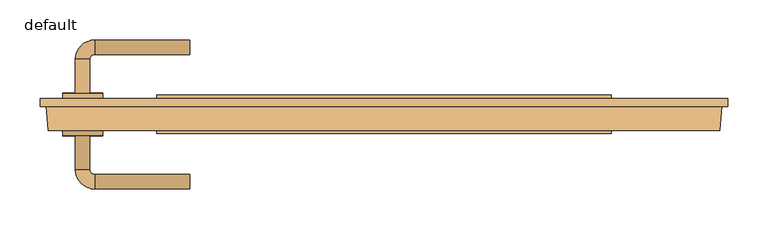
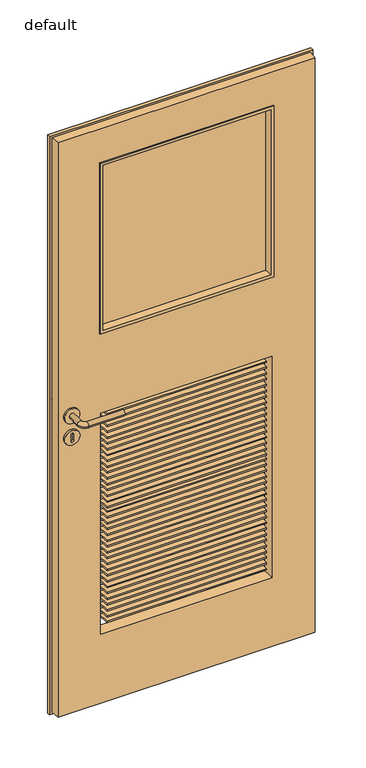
"""IFC4 building model written with IfcOpenShell, lengths in millimetres: door geometry, Panel_FIN_40D_Rebated_Glazed_05 without vent : default."""

from ifc_helpers import new_model, si_unit, point, frame, frame_2d, origin, place, context, project, spatial, polyline, circle_curve, ellipse_curve, trimmed, segment, composite_curve, outline, extrude, faceted_brep, source, transform, mapped, element, save
from ifc_brep_helpers import plane_surface, cylinder_surface, revolved_surface, advanced_brep


def default_41fbb746(model_context):
    return source(origin(), model_context, "Body", "SolidModel", [
        extrude(outline(composite_curve([segment(trimmed(circle_curve(frame_2d((970.5, -376.0)), 25.0), [point((970.5, -351.0))], [point((970.5, -401.0))], False, "CARTESIAN"), True, "CONTINUOUS"), segment(trimmed(circle_curve(frame_2d((970.5, -376.0)), 25.0), [point((970.5, -401.0))], [point((970.5, -351.0))], False, "CARTESIAN"), True, "CONTINUOUS")], self_intersect=False), holes=[composite_curve([segment(trimmed(circle_curve(frame_2d((981.743411, -376.0)), 4.0), [point((981.743411, -380.0))], [point((981.743411, -372.0))], True, "CARTESIAN"), True, "CONTINUOUS"), segment(polyline([(981.743411, -372.0), (959.256589, -372.0)]), True, "CONTINUOUS"), segment(trimmed(circle_curve(frame_2d((959.256589, -376.0)), 4.0), [point((959.256589, -372.0))], [point((959.256589, -380.0))], True, "CARTESIAN"), True, "CONTINUOUS"), segment(polyline([(959.256589, -380.0), (981.743411, -380.0)]), True, "CONTINUOUS")], self_intersect=False)]), frame((0.0, -47.0, 0.0), z_axis=(0.0, 1.0, 0.0), x_axis=(0.0, 0.0, 1.0)), (0.0, 0.0, 1.0), 7.0),
        extrude(outline(composite_curve([segment(trimmed(circle_curve(frame_2d((970.5, -376.0)), 25.0), [point((970.5, -351.0))], [point((970.5, -401.0))], False, "CARTESIAN"), True, "CONTINUOUS"), segment(trimmed(circle_curve(frame_2d((970.5, -376.0)), 25.0), [point((970.5, -401.0))], [point((970.5, -351.0))], False, "CARTESIAN"), True, "CONTINUOUS")], self_intersect=False), holes=[composite_curve([segment(polyline([(959.256589, -380.0), (981.743411, -380.0)]), True, "CONTINUOUS"), segment(trimmed(circle_curve(frame_2d((981.743411, -376.0)), 4.0), [point((981.743411, -380.0))], [point((981.743411, -372.0))], True, "CARTESIAN"), True, "CONTINUOUS"), segment(polyline([(981.743411, -372.0), (959.256589, -372.0)]), True, "CONTINUOUS"), segment(trimmed(circle_curve(frame_2d((959.256589, -376.0)), 4.0), [point((959.256589, -372.0))], [point((959.256589, -380.0))], True, "CARTESIAN"), True, "CONTINUOUS")], self_intersect=False)]), frame((0.0, 0.0, 0.0), z_axis=(0.0, 1.0, 0.0), x_axis=(0.0, 0.0, 1.0)), (0.0, 0.0, 1.0), 7.0),
        advanced_brep(
        [(-401.0, -46.0, 1044.5), (-351.0, -46.0, 1044.5), (-367.0346073, -46.0, 1044.5), (-384.9653927, -46.0, 1044.5), (-401.0, -40.0, 1044.5), (-351.0, -40.0, 1044.5), (-384.9653927, -88.9627146, 1044.5), (-367.0346073, -88.9627146, 1044.5), (-361.0, -112.9281073, 1044.5), (-361.0, -94.9973219, 1044.5), (-242.0, -94.9973219, 1044.5), (-242.0, -112.9281073, 1044.5)],
        [
            (0, 1, circle_curve(frame((-376.0, -46.0, 1044.5), z_axis=(0.0, -1.0, 0.0), x_axis=(1.0, 0.0, 0.0)), 25.0)),
            (1, 0, circle_curve(frame((-376.0, -46.0, 1044.5), z_axis=(0.0, -1.0, 0.0), x_axis=(1.0, 0.0, 0.0)), 25.0)),
            (2, 3, circle_curve(frame((-376.0, -46.0, 1044.5), z_axis=(0.0, 1.0, 0.0), x_axis=(-1.0, 0.0, 0.0)), 8.9653927)),
            (3, 2, circle_curve(frame((-376.0, -46.0, 1044.5), z_axis=(0.0, 1.0, 0.0), x_axis=(-1.0, 0.0, 0.0)), 8.9653927)),
            (4, 5, circle_curve(frame((-376.0, -40.0, 1044.5), z_axis=(0.0, 1.0, 0.0), x_axis=(1.0, 0.0, 0.0)), 25.0)),
            (5, 4, circle_curve(frame((-376.0, -40.0, 1044.5), z_axis=(0.0, 1.0, 0.0), x_axis=(1.0, 0.0, 0.0)), 25.0)),
            (0, 4),
            (5, 1),
            (3, 6),
            (6, 7, circle_curve(frame((-376.0, -88.9627146, 1044.5), z_axis=(0.0, 1.0, 0.0), x_axis=(-1.0, 0.0, 0.0)), 8.9653927)),
            (7, 2),
            (7, 6, circle_curve(frame((-376.0, -88.9627146, 1044.5), z_axis=(0.0, 1.0, 0.0), x_axis=(-1.0, 0.0, 0.0)), 8.9653927)),
            (6, 8, circle_curve(frame((-361.0, -88.9627146, 1044.5), z_axis=(0.0, 0.0, 1.0), x_axis=(-1.0, 0.0, 0.0)), 23.9653927)),
            (8, 9, circle_curve(frame((-361.0, -103.9627146, 1044.5), z_axis=(-1.0, 0.0, 0.0), x_axis=(0.0, -1.0, 0.0)), 8.9653927)),
            (9, 7, circle_curve(frame((-361.0, -88.9627146, 1044.5), z_axis=(0.0, 0.0, -1.0), x_axis=(-1.0, 0.0, 0.0)), 6.0346073)),
            (9, 8, circle_curve(frame((-361.0, -103.9627146, 1044.5), z_axis=(-1.0, 0.0, 0.0), x_axis=(0.0, -1.0, 0.0)), 8.9653927)),
            (10, 11, circle_curve(frame((-242.0, -103.9627146, 1044.5), z_axis=(1.0, 0.0, 0.0), x_axis=(0.0, -1.0, 0.0)), 8.9653927)),
            (11, 10, circle_curve(frame((-242.0, -103.9627146, 1044.5), z_axis=(1.0, 0.0, 0.0), x_axis=(0.0, -1.0, 0.0)), 8.9653927)),
            (8, 11),
            (10, 9),
        ],
        [
            plane_surface(frame((-351.0, -46.0, 1044.5), z_axis=(0.0, -1.0, 0.0), x_axis=(0.0, 0.0, -1.0))),
            plane_surface(frame((-351.0, -40.0, 1044.5), z_axis=(0.0, 1.0, 0.0), x_axis=(0.0, 0.0, 1.0))),
            cylinder_surface(frame((-376.0, -46.0, 1044.5), z_axis=(0.0, 1.0, 0.0), x_axis=(1.0, 0.0, 0.0)), 25.0),
            cylinder_surface(frame((-376.0, -46.0, 1044.5), z_axis=(0.0, 1.0, 0.0), x_axis=(-1.0, 0.0, 0.0)), 8.9653927),
            revolved_surface(trimmed(ellipse_curve(frame((-376.0, -88.9627146, 1044.5), z_axis=(0.0, -1.0, 0.0), x_axis=(-1.0, 0.0, 0.0)), 8.9653927, 8.9653927), [point((-367.0346073, -88.9627146, 1044.5))], [point((-384.9653927, -88.9627146, 1044.5))], True, "CARTESIAN"), (-361.0, -88.9627146, 1044.5), (0.0, 0.0, -1.0)),
            revolved_surface(trimmed(ellipse_curve(frame((-376.0, -88.9627146, 1044.5), z_axis=(0.0, -1.0, 0.0), x_axis=(-1.0, 0.0, 0.0)), 8.9653927, 8.9653927), [point((-384.9653927, -88.9627146, 1044.5))], [point((-367.0346073, -88.9627146, 1044.5))], True, "CARTESIAN"), (-361.0, -88.9627146, 1044.5), (0.0, 0.0, -1.0)),
            plane_surface(frame((-242.0, -103.9627146, 1044.5), z_axis=(1.0, 0.0, 0.0), x_axis=(0.0, 0.0, 1.0))),
            cylinder_surface(frame((-361.0, -103.9627146, 1044.5), z_axis=(-1.0, 0.0, 0.0), x_axis=(0.0, -1.0, 0.0)), 8.9653927),
        ],
        [
            (0, [[1, 2], [3, 4]]),
            (1, [[5, 6]]),
            (2, [[7, -6, 8, -1]]),
            (2, [[-8, -5, -7, -2]]),
            (3, [[-4, 9, 10, 11]]),
            (3, [[12, -9, -3, -11]]),
            (4, [[13, 14, 15, -10]]),
            (5, [[-15, 16, -13, -12]]),
            (6, [[17, 18]]),
            (7, [[19, -17, 20, -14]]),
            (7, [[-20, -18, -19, -16]]),
        ],
    ),
        advanced_brep(
        [(-401.0, 6.0, 1044.5), (-351.0, 6.0, 1044.5), (-367.0346073, 6.0, 1044.5), (-384.9653927, 6.0, 1044.5), (-401.0, 0.0, 1044.5), (-351.0, 0.0, 1044.5), (-367.0346073, 48.9627146, 1044.5), (-384.9653927, 48.9627146, 1044.5), (-361.0, 54.9973219, 1044.5), (-361.0, 72.9281073, 1044.5), (-242.0, 54.9973219, 1044.5), (-242.0, 72.9281073, 1044.5)],
        [
            (0, 1, circle_curve(frame((-376.0, 6.0, 1044.5), z_axis=(0.0, 1.0, 0.0), x_axis=(1.0, 0.0, 0.0)), 25.0)),
            (1, 0, circle_curve(frame((-376.0, 6.0, 1044.5), z_axis=(0.0, 1.0, 0.0), x_axis=(1.0, 0.0, 0.0)), 25.0)),
            (2, 3, circle_curve(frame((-376.0, 6.0, 1044.5), z_axis=(0.0, -1.0, 0.0), x_axis=(-1.0, 0.0, 0.0)), 8.9653927)),
            (3, 2, circle_curve(frame((-376.0, 6.0, 1044.5), z_axis=(0.0, -1.0, 0.0), x_axis=(-1.0, 0.0, 0.0)), 8.9653927)),
            (4, 5, circle_curve(frame((-376.0, 0.0, 1044.5), z_axis=(0.0, -1.0, 0.0), x_axis=(1.0, 0.0, 0.0)), 25.0)),
            (5, 4, circle_curve(frame((-376.0, 0.0, 1044.5), z_axis=(0.0, -1.0, 0.0), x_axis=(1.0, 0.0, 0.0)), 25.0)),
            (1, 5),
            (4, 0),
            (2, 6),
            (6, 7, circle_curve(frame((-376.0, 48.9627146, 1044.5), z_axis=(0.0, -1.0, 0.0), x_axis=(-1.0, 0.0, 0.0)), 8.9653927)),
            (7, 3),
            (7, 6, circle_curve(frame((-376.0, 48.9627146, 1044.5), z_axis=(0.0, -1.0, 0.0), x_axis=(-1.0, 0.0, 0.0)), 8.9653927)),
            (6, 8, circle_curve(frame((-361.0, 48.9627146, 1044.5), z_axis=(0.0, 0.0, -1.0), x_axis=(-1.0, 0.0, 0.0)), 6.0346073)),
            (8, 9, circle_curve(frame((-361.0, 63.9627146, 1044.5), z_axis=(-1.0, 0.0, 0.0), x_axis=(0.0, 1.0, 0.0)), 8.9653927)),
            (9, 7, circle_curve(frame((-361.0, 48.9627146, 1044.5), z_axis=(0.0, 0.0, 1.0), x_axis=(-1.0, 0.0, 0.0)), 23.9653927)),
            (9, 8, circle_curve(frame((-361.0, 63.9627146, 1044.5), z_axis=(-1.0, 0.0, 0.0), x_axis=(0.0, 1.0, 0.0)), 8.9653927)),
            (10, 11, circle_curve(frame((-242.0, 63.9627146, 1044.5), z_axis=(1.0, 0.0, 0.0), x_axis=(0.0, 1.0, 0.0)), 8.9653927)),
            (11, 10, circle_curve(frame((-242.0, 63.9627146, 1044.5), z_axis=(1.0, 0.0, 0.0), x_axis=(0.0, 1.0, 0.0)), 8.9653927)),
            (8, 10),
            (11, 9),
        ],
        [
            plane_surface(frame((-351.0, 6.0, 1044.5), z_axis=(0.0, 1.0, 0.0), x_axis=(0.0, 0.0, -1.0))),
            plane_surface(frame((-351.0, 0.0, 1044.5), z_axis=(0.0, -1.0, 0.0), x_axis=(0.0, 0.0, 1.0))),
            cylinder_surface(frame((-376.0, 6.0, 1044.5), z_axis=(0.0, -1.0, 0.0), x_axis=(1.0, 0.0, 0.0)), 25.0),
            cylinder_surface(frame((-376.0, 6.0, 1044.5), z_axis=(0.0, -1.0, 0.0), x_axis=(-1.0, 0.0, 0.0)), 8.9653927),
            revolved_surface(trimmed(ellipse_curve(frame((-376.0, 48.9627146, 1044.5), z_axis=(0.0, -1.0, 0.0), x_axis=(-1.0, 0.0, 0.0)), 8.9653927, 8.9653927), [point((-367.0346073, 48.9627146, 1044.5))], [point((-384.9653927, 48.9627146, 1044.5))], True, "CARTESIAN"), (-361.0, 48.9627146, 1044.5), (0.0, 0.0, -1.0)),
            revolved_surface(trimmed(ellipse_curve(frame((-376.0, 48.9627146, 1044.5), z_axis=(0.0, -1.0, 0.0), x_axis=(-1.0, 0.0, 0.0)), 8.9653927, 8.9653927), [point((-384.9653927, 48.9627146, 1044.5))], [point((-367.0346073, 48.9627146, 1044.5))], True, "CARTESIAN"), (-361.0, 48.9627146, 1044.5), (0.0, 0.0, -1.0)),
            plane_surface(frame((-242.0, 63.9627146, 1044.5), z_axis=(1.0, 0.0, 0.0), x_axis=(0.0, 0.0, 1.0))),
            cylinder_surface(frame((-361.0, 63.9627146, 1044.5), z_axis=(-1.0, 0.0, 0.0), x_axis=(0.0, 1.0, 0.0)), 8.9653927),
        ],
        [
            (0, [[1, 2], [3, 4]]),
            (1, [[5, 6]]),
            (2, [[-2, 7, -5, 8]]),
            (2, [[-1, -8, -6, -7]]),
            (3, [[9, 10, 11, -3]]),
            (3, [[-9, -4, -11, 12]]),
            (4, [[-10, 13, 14, 15]]),
            (5, [[-12, -15, 16, -13]]),
            (6, [[17, 18]]),
            (7, [[-14, 19, -18, 20]]),
            (7, [[-16, -20, -17, -19]]),
        ],
    ),
        faceted_brep([(418.9021956, -40.0, 18.0), (418.9021956, -40.0, 1997.0), (-418.9021956, -40.0, 1997.0), (-418.9021956, -40.0, 18.0), (-279.0, -40.0, 1017.0097387), (279.0, -40.0, 1017.0097387), (279.0, -40.0, 255.0097387), (-279.0, -40.0, 255.0097387), (-279.0, -40.0, 1297.0), (-279.0, -40.0, 1876.0), (279.0, -40.0, 1876.0), (279.0, -40.0, 1297.0), (421.0, -10.0, 18.0), (421.0, -10.0, 1997.0), (-421.0, -10.0, 1997.0), (-421.0, -10.0, 18.0), (-279.0, 0.0, 1017.0097387), (279.0, 0.0, 1017.0097387), (279.0, 0.0, 255.0097387), (-279.0, 0.0, 255.0097387), (-429.0, 0.0, 2003.0), (429.0, 0.0, 2003.0), (429.0, 0.0, 12.0), (-429.0, 0.0, 12.0), (-279.0, 0.0, 1876.0), (-279.0, 0.0, 1297.0), (279.0, 0.0, 1297.0), (279.0, 0.0, 1876.0), (429.0, -10.0, 2003.0), (429.0, -10.0, 12.0), (-429.0, -10.0, 12.0), (-429.0, -10.0, 2003.0)], [[[0, 1, 2, 3], [4, 5, 6, 7], [8, 9, 10, 11]], [[1, 0, 12, 13]], [[3, 2, 14, 15]], [[15, 12, 0, 3]], [[5, 4, 16, 17]], [[6, 5, 17, 18]], [[7, 6, 18, 19]], [[4, 7, 19, 16]], [[20, 21, 22, 23], [16, 19, 18, 17], [24, 25, 26, 27]], [[22, 21, 28, 29]], [[23, 22, 29, 30]], [[20, 23, 30, 31]], [[30, 29, 28, 31], [15, 14, 13, 12]], [[21, 20, 31, 28]], [[13, 14, 2, 1]], [[24, 9, 8, 25]], [[25, 8, 11, 26]], [[26, 11, 10, 27]], [[9, 24, 27, 10]]]),
        faceted_brep([(-259.2469897, -40.0, 1007.5), (-259.2469897, -40.0, 1002.5), (260.7530103, -40.0, 1002.5), (260.7530103, -40.0, 1007.5), (-259.2469897, 0.0, 1007.5), (-259.2469897, 0.0, 1002.5), (260.7530103, 0.0, 1002.5), (260.7530103, 0.0, 1007.5)], [[[0, 1, 2, 3]], [[1, 0, 4, 5]], [[2, 1, 5, 6]], [[3, 2, 6, 7]], [[0, 3, 7, 4]], [[4, 7, 6, 5]]]),
        faceted_brep([(-259.2469897, -40.0, 987.5), (-259.2469897, -40.0, 982.5), (260.7530103, -40.0, 982.5), (260.7530103, -40.0, 987.5), (-259.2469897, 0.0, 987.5), (-259.2469897, 0.0, 982.5), (260.7530103, 0.0, 982.5), (260.7530103, 0.0, 987.5)], [[[0, 1, 2, 3]], [[1, 0, 4, 5]], [[2, 1, 5, 6]], [[3, 2, 6, 7]], [[0, 3, 7, 4]], [[4, 7, 6, 5]]]),
        faceted_brep([(-259.2469897, -40.0, 967.5), (-259.2469897, -40.0, 962.5), (260.7530103, -40.0, 962.5), (260.7530103, -40.0, 967.5), (-259.2469897, 0.0, 967.5), (-259.2469897, 0.0, 962.5), (260.7530103, 0.0, 962.5), (260.7530103, 0.0, 967.5)], [[[0, 1, 2, 3]], [[1, 0, 4, 5]], [[2, 1, 5, 6]], [[3, 2, 6, 7]], [[0, 3, 7, 4]], [[4, 7, 6, 5]]]),
        faceted_brep([(-259.2469897, -40.0, 947.5), (-259.2469897, -40.0, 942.5), (260.7530103, -40.0, 942.5), (260.7530103, -40.0, 947.5), (-259.2469897, 0.0, 947.5), (-259.2469897, 0.0, 942.5), (260.7530103, 0.0, 942.5), (260.7530103, 0.0, 947.5)], [[[0, 1, 2, 3]], [[1, 0, 4, 5]], [[2, 1, 5, 6]], [[3, 2, 6, 7]], [[0, 3, 7, 4]], [[4, 7, 6, 5]]]),
        faceted_brep([(-259.2469897, -40.0, 927.5), (-259.2469897, -40.0, 922.5), (260.7530103, -40.0, 922.5), (260.7530103, -40.0, 927.5), (-259.2469897, 0.0, 927.5), (-259.2469897, 0.0, 922.5), (260.7530103, 0.0, 922.5), (260.7530103, 0.0, 927.5)], [[[0, 1, 2, 3]], [[1, 0, 4, 5]], [[2, 1, 5, 6]], [[3, 2, 6, 7]], [[0, 3, 7, 4]], [[4, 7, 6, 5]]]),
        faceted_brep([(-259.2469897, -40.0, 907.5), (-259.2469897, -40.0, 902.5), (260.7530103, -40.0, 902.5), (260.7530103, -40.0, 907.5), (-259.2469897, 0.0, 907.5), (-259.2469897, 0.0, 902.5), (260.7530103, 0.0, 902.5), (260.7530103, 0.0, 907.5)], [[[0, 1, 2, 3]], [[1, 0, 4, 5]], [[2, 1, 5, 6]], [[3, 2, 6, 7]], [[0, 3, 7, 4]], [[4, 7, 6, 5]]]),
        faceted_brep([(-259.2469897, -40.0, 887.5), (-259.2469897, -40.0, 882.5), (260.7530103, -40.0, 882.5), (260.7530103, -40.0, 887.5), (-259.2469897, 0.0, 887.5), (-259.2469897, 0.0, 882.5), (260.7530103, 0.0, 882.5), (260.7530103, 0.0, 887.5)], [[[0, 1, 2, 3]], [[1, 0, 4, 5]], [[2, 1, 5, 6]], [[3, 2, 6, 7]], [[0, 3, 7, 4]], [[4, 7, 6, 5]]]),
        faceted_brep([(-259.2469897, -40.0, 867.5), (-259.2469897, -40.0, 862.5), (260.7530103, -40.0, 862.5), (260.7530103, -40.0, 867.5), (-259.2469897, 0.0, 867.5), (-259.2469897, 0.0, 862.5), (260.7530103, 0.0, 862.5), (260.7530103, 0.0, 867.5)], [[[0, 1, 2, 3]], [[1, 0, 4, 5]], [[2, 1, 5, 6]], [[3, 2, 6, 7]], [[0, 3, 7, 4]], [[4, 7, 6, 5]]]),
        faceted_brep([(-259.2469897, -40.0, 847.5), (-259.2469897, -40.0, 842.5), (260.7530103, -40.0, 842.5), (260.7530103, -40.0, 847.5), (-259.2469897, 0.0, 847.5), (-259.2469897, 0.0, 842.5), (260.7530103, 0.0, 842.5), (260.7530103, 0.0, 847.5)], [[[0, 1, 2, 3]], [[1, 0, 4, 5]], [[2, 1, 5, 6]], [[3, 2, 6, 7]], [[0, 3, 7, 4]], [[4, 7, 6, 5]]]),
        faceted_brep([(-259.2469897, -40.0, 827.5), (-259.2469897, -40.0, 822.5), (260.7530103, -40.0, 822.5), (260.7530103, -40.0, 827.5), (-259.2469897, 0.0, 827.5), (-259.2469897, 0.0, 822.5), (260.7530103, 0.0, 822.5), (260.7530103, 0.0, 827.5)], [[[0, 1, 2, 3]], [[1, 0, 4, 5]], [[2, 1, 5, 6]], [[3, 2, 6, 7]], [[0, 3, 7, 4]], [[4, 7, 6, 5]]]),
        faceted_brep([(-259.2469897, -40.0, 807.5), (-259.2469897, -40.0, 802.5), (260.7530103, -40.0, 802.5), (260.7530103, -40.0, 807.5), (-259.2469897, 0.0, 807.5), (-259.2469897, 0.0, 802.5), (260.7530103, 0.0, 802.5), (260.7530103, 0.0, 807.5)], [[[0, 1, 2, 3]], [[1, 0, 4, 5]], [[2, 1, 5, 6]], [[3, 2, 6, 7]], [[0, 3, 7, 4]], [[4, 7, 6, 5]]]),
        faceted_brep([(-259.2469897, -40.0, 787.5), (-259.2469897, -40.0, 782.5), (260.7530103, -40.0, 782.5), (260.7530103, -40.0, 787.5), (-259.2469897, 0.0, 787.5), (-259.2469897, 0.0, 782.5), (260.7530103, 0.0, 782.5), (260.7530103, 0.0, 787.5)], [[[0, 1, 2, 3]], [[1, 0, 4, 5]], [[2, 1, 5, 6]], [[3, 2, 6, 7]], [[0, 3, 7, 4]], [[4, 7, 6, 5]]]),
        faceted_brep([(-259.2469897, -40.0, 767.5), (-259.2469897, -40.0, 762.5), (260.7530103, -40.0, 762.5), (260.7530103, -40.0, 767.5), (-259.2469897, 0.0, 767.5), (-259.2469897, 0.0, 762.5), (260.7530103, 0.0, 762.5), (260.7530103, 0.0, 767.5)], [[[0, 1, 2, 3]], [[1, 0, 4, 5]], [[2, 1, 5, 6]], [[3, 2, 6, 7]], [[0, 3, 7, 4]], [[4, 7, 6, 5]]]),
        faceted_brep([(-259.2469897, -40.0, 747.5), (-259.2469897, -40.0, 742.5), (260.7530103, -40.0, 742.5), (260.7530103, -40.0, 747.5), (-259.2469897, 0.0, 747.5), (-259.2469897, 0.0, 742.5), (260.7530103, 0.0, 742.5), (260.7530103, 0.0, 747.5)], [[[0, 1, 2, 3]], [[1, 0, 4, 5]], [[2, 1, 5, 6]], [[3, 2, 6, 7]], [[0, 3, 7, 4]], [[4, 7, 6, 5]]]),
        faceted_brep([(-259.2469897, -40.0, 727.5), (-259.2469897, -40.0, 722.5), (260.7530103, -40.0, 722.5), (260.7530103, -40.0, 727.5), (-259.2469897, 0.0, 727.5), (-259.2469897, 0.0, 722.5), (260.7530103, 0.0, 722.5), (260.7530103, 0.0, 727.5)], [[[0, 1, 2, 3]], [[1, 0, 4, 5]], [[2, 1, 5, 6]], [[3, 2, 6, 7]], [[0, 3, 7, 4]], [[4, 7, 6, 5]]]),
        faceted_brep([(-259.2469897, -40.0, 707.5), (-259.2469897, -40.0, 702.5), (260.7530103, -40.0, 702.5), (260.7530103, -40.0, 707.5), (-259.2469897, 0.0, 707.5), (-259.2469897, 0.0, 702.5), (260.7530103, 0.0, 702.5), (260.7530103, 0.0, 707.5)], [[[0, 1, 2, 3]], [[1, 0, 4, 5]], [[2, 1, 5, 6]], [[3, 2, 6, 7]], [[0, 3, 7, 4]], [[4, 7, 6, 5]]]),
        faceted_brep([(-259.2469897, -40.0, 687.5), (-259.2469897, -40.0, 682.5), (260.7530103, -40.0, 682.5), (260.7530103, -40.0, 687.5), (-259.2469897, 0.0, 687.5), (-259.2469897, 0.0, 682.5), (260.7530103, 0.0, 682.5), (260.7530103, 0.0, 687.5)], [[[0, 1, 2, 3]], [[1, 0, 4, 5]], [[2, 1, 5, 6]], [[3, 2, 6, 7]], [[0, 3, 7, 4]], [[4, 7, 6, 5]]]),
        faceted_brep([(-259.2469897, -40.0, 672.9902613), (-259.2469897, -40.0, 667.9902613), (260.7530103, -40.0, 667.9902613), (260.7530103, -40.0, 672.9902613), (-259.2469897, 0.0, 672.9902613), (-259.2469897, 0.0, 667.9902613), (260.7530103, 0.0, 667.9902613), (260.7530103, 0.0, 672.9902613)], [[[0, 1, 2, 3]], [[1, 0, 4, 5]], [[2, 1, 5, 6]], [[3, 2, 6, 7]], [[0, 3, 7, 4]], [[4, 7, 6, 5]]]),
        faceted_brep([(-259.2469897, -40.0, 652.9902613), (-259.2469897, -40.0, 647.9902613), (260.7530103, -40.0, 647.9902613), (260.7530103, -40.0, 652.9902613), (-259.2469897, 0.0, 652.9902613), (-259.2469897, 0.0, 647.9902613), (260.7530103, 0.0, 647.9902613), (260.7530103, 0.0, 652.9902613)], [[[0, 1, 2, 3]], [[1, 0, 4, 5]], [[2, 1, 5, 6]], [[3, 2, 6, 7]], [[0, 3, 7, 4]], [[4, 7, 6, 5]]]),
        faceted_brep([(-259.2469897, -40.0, 632.9902613), (-259.2469897, -40.0, 627.9902613), (260.7530103, -40.0, 627.9902613), (260.7530103, -40.0, 632.9902613), (-259.2469897, 0.0, 632.9902613), (-259.2469897, 0.0, 627.9902613), (260.7530103, 0.0, 627.9902613), (260.7530103, 0.0, 632.9902613)], [[[0, 1, 2, 3]], [[1, 0, 4, 5]], [[2, 1, 5, 6]], [[3, 2, 6, 7]], [[0, 3, 7, 4]], [[4, 7, 6, 5]]]),
        faceted_brep([(-259.2469897, -40.0, 612.9902613), (-259.2469897, -40.0, 607.9902613), (260.7530103, -40.0, 607.9902613), (260.7530103, -40.0, 612.9902613), (-259.2469897, 0.0, 612.9902613), (-259.2469897, 0.0, 607.9902613), (260.7530103, 0.0, 607.9902613), (260.7530103, 0.0, 612.9902613)], [[[0, 1, 2, 3]], [[1, 0, 4, 5]], [[2, 1, 5, 6]], [[3, 2, 6, 7]], [[0, 3, 7, 4]], [[4, 7, 6, 5]]]),
        faceted_brep([(-259.2469897, -40.0, 592.9902613), (-259.2469897, -40.0, 587.9902613), (260.7530103, -40.0, 587.9902613), (260.7530103, -40.0, 592.9902613), (-259.2469897, 0.0, 592.9902613), (-259.2469897, 0.0, 587.9902613), (260.7530103, 0.0, 587.9902613), (260.7530103, 0.0, 592.9902613)], [[[0, 1, 2, 3]], [[1, 0, 4, 5]], [[2, 1, 5, 6]], [[3, 2, 6, 7]], [[0, 3, 7, 4]], [[4, 7, 6, 5]]]),
        faceted_brep([(-259.2469897, -40.0, 572.9902613), (-259.2469897, -40.0, 567.9902613), (260.7530103, -40.0, 567.9902613), (260.7530103, -40.0, 572.9902613), (-259.2469897, 0.0, 572.9902613), (-259.2469897, 0.0, 567.9902613), (260.7530103, 0.0, 567.9902613), (260.7530103, 0.0, 572.9902613)], [[[0, 1, 2, 3]], [[1, 0, 4, 5]], [[2, 1, 5, 6]], [[3, 2, 6, 7]], [[0, 3, 7, 4]], [[4, 7, 6, 5]]]),
        faceted_brep([(-259.2469897, -40.0, 552.9902613), (-259.2469897, -40.0, 547.9902613), (260.7530103, -40.0, 547.9902613), (260.7530103, -40.0, 552.9902613), (-259.2469897, 0.0, 552.9902613), (-259.2469897, 0.0, 547.9902613), (260.7530103, 0.0, 547.9902613), (260.7530103, 0.0, 552.9902613)], [[[0, 1, 2, 3]], [[1, 0, 4, 5]], [[2, 1, 5, 6]], [[3, 2, 6, 7]], [[0, 3, 7, 4]], [[4, 7, 6, 5]]]),
        faceted_brep([(-259.2469897, -40.0, 532.9902613), (-259.2469897, -40.0, 527.9902613), (260.7530103, -40.0, 527.9902613), (260.7530103, -40.0, 532.9902613), (-259.2469897, 0.0, 532.9902613), (-259.2469897, 0.0, 527.9902613), (260.7530103, 0.0, 527.9902613), (260.7530103, 0.0, 532.9902613)], [[[0, 1, 2, 3]], [[1, 0, 4, 5]], [[2, 1, 5, 6]], [[3, 2, 6, 7]], [[0, 3, 7, 4]], [[4, 7, 6, 5]]]),
        faceted_brep([(-259.2469897, -40.0, 512.9902613), (-259.2469897, -40.0, 507.9902613), (260.7530103, -40.0, 507.9902613), (260.7530103, -40.0, 512.9902613), (-259.2469897, 0.0, 512.9902613), (-259.2469897, 0.0, 507.9902613), (260.7530103, 0.0, 507.9902613), (260.7530103, 0.0, 512.9902613)], [[[0, 1, 2, 3]], [[1, 0, 4, 5]], [[2, 1, 5, 6]], [[3, 2, 6, 7]], [[0, 3, 7, 4]], [[4, 7, 6, 5]]]),
        faceted_brep([(-259.2469897, -40.0, 492.9902613), (-259.2469897, -40.0, 487.9902613), (260.7530103, -40.0, 487.9902613), (260.7530103, -40.0, 492.9902613), (-259.2469897, 0.0, 492.9902613), (-259.2469897, 0.0, 487.9902613), (260.7530103, 0.0, 487.9902613), (260.7530103, 0.0, 492.9902613)], [[[0, 1, 2, 3]], [[1, 0, 4, 5]], [[2, 1, 5, 6]], [[3, 2, 6, 7]], [[0, 3, 7, 4]], [[4, 7, 6, 5]]]),
        faceted_brep([(-259.2469897, -40.0, 472.9902613), (-259.2469897, -40.0, 467.9902613), (260.7530103, -40.0, 467.9902613), (260.7530103, -40.0, 472.9902613), (-259.2469897, 0.0, 472.9902613), (-259.2469897, 0.0, 467.9902613), (260.7530103, 0.0, 467.9902613), (260.7530103, 0.0, 472.9902613)], [[[0, 1, 2, 3]], [[1, 0, 4, 5]], [[2, 1, 5, 6]], [[3, 2, 6, 7]], [[0, 3, 7, 4]], [[4, 7, 6, 5]]]),
        faceted_brep([(-259.2469897, -40.0, 452.9902613), (-259.2469897, -40.0, 447.9902613), (260.7530103, -40.0, 447.9902613), (260.7530103, -40.0, 452.9902613), (-259.2469897, 0.0, 452.9902613), (-259.2469897, 0.0, 447.9902613), (260.7530103, 0.0, 447.9902613), (260.7530103, 0.0, 452.9902613)], [[[0, 1, 2, 3]], [[1, 0, 4, 5]], [[2, 1, 5, 6]], [[3, 2, 6, 7]], [[0, 3, 7, 4]], [[4, 7, 6, 5]]]),
        faceted_brep([(-259.2469897, -40.0, 432.9902613), (-259.2469897, -40.0, 427.9902613), (260.7530103, -40.0, 427.9902613), (260.7530103, -40.0, 432.9902613), (-259.2469897, 0.0, 432.9902613), (-259.2469897, 0.0, 427.9902613), (260.7530103, 0.0, 427.9902613), (260.7530103, 0.0, 432.9902613)], [[[0, 1, 2, 3]], [[1, 0, 4, 5]], [[2, 1, 5, 6]], [[3, 2, 6, 7]], [[0, 3, 7, 4]], [[4, 7, 6, 5]]]),
        faceted_brep([(-259.2469897, -40.0, 412.9902613), (-259.2469897, -40.0, 407.9902613), (260.7530103, -40.0, 407.9902613), (260.7530103, -40.0, 412.9902613), (-259.2469897, 0.0, 412.9902613), (-259.2469897, 0.0, 407.9902613), (260.7530103, 0.0, 407.9902613), (260.7530103, 0.0, 412.9902613)], [[[0, 1, 2, 3]], [[1, 0, 4, 5]], [[2, 1, 5, 6]], [[3, 2, 6, 7]], [[0, 3, 7, 4]], [[4, 7, 6, 5]]]),
        faceted_brep([(-259.2469897, -40.0, 332.9902613), (-259.2469897, -40.0, 327.9902613), (260.7530103, -40.0, 327.9902613), (260.7530103, -40.0, 332.9902613), (-259.2469897, 0.0, 332.9902613), (-259.2469897, 0.0, 327.9902613), (260.7530103, 0.0, 327.9902613), (260.7530103, 0.0, 332.9902613)], [[[0, 1, 2, 3]], [[1, 0, 4, 5]], [[2, 1, 5, 6]], [[3, 2, 6, 7]], [[0, 3, 7, 4]], [[4, 7, 6, 5]]]),
        faceted_brep([(-259.2469897, -40.0, 312.9902613), (-259.2469897, -40.0, 307.9902613), (260.7530103, -40.0, 307.9902613), (260.7530103, -40.0, 312.9902613), (-259.2469897, 0.0, 312.9902613), (-259.2469897, 0.0, 307.9902613), (260.7530103, 0.0, 307.9902613), (260.7530103, 0.0, 312.9902613)], [[[0, 1, 2, 3]], [[1, 0, 4, 5]], [[2, 1, 5, 6]], [[3, 2, 6, 7]], [[0, 3, 7, 4]], [[4, 7, 6, 5]]]),
        faceted_brep([(-259.2469897, -40.0, 292.9902613), (-259.2469897, -40.0, 287.9902613), (260.7530103, -40.0, 287.9902613), (260.7530103, -40.0, 292.9902613), (-259.2469897, 0.0, 292.9902613), (-259.2469897, 0.0, 287.9902613), (260.7530103, 0.0, 287.9902613), (260.7530103, 0.0, 292.9902613)], [[[0, 1, 2, 3]], [[1, 0, 4, 5]], [[2, 1, 5, 6]], [[3, 2, 6, 7]], [[0, 3, 7, 4]], [[4, 7, 6, 5]]]),
        faceted_brep([(-259.2469897, -40.0, 392.9902613), (-259.2469897, -40.0, 387.9902613), (260.7530103, -40.0, 387.9902613), (260.7530103, -40.0, 392.9902613), (-259.2469897, 0.0, 392.9902613), (-259.2469897, 0.0, 387.9902613), (260.7530103, 0.0, 387.9902613), (260.7530103, 0.0, 392.9902613)], [[[0, 1, 2, 3]], [[1, 0, 4, 5]], [[2, 1, 5, 6]], [[3, 2, 6, 7]], [[0, 3, 7, 4]], [[4, 7, 6, 5]]]),
        faceted_brep([(-259.2469897, -40.0, 372.9902613), (-259.2469897, -40.0, 367.9902613), (260.7530103, -40.0, 367.9902613), (260.7530103, -40.0, 372.9902613), (-259.2469897, 0.0, 372.9902613), (-259.2469897, 0.0, 367.9902613), (260.7530103, 0.0, 367.9902613), (260.7530103, 0.0, 372.9902613)], [[[0, 1, 2, 3]], [[1, 0, 4, 5]], [[2, 1, 5, 6]], [[3, 2, 6, 7]], [[0, 3, 7, 4]], [[4, 7, 6, 5]]]),
        faceted_brep([(-259.2469897, -40.0, 352.9902613), (-259.2469897, -40.0, 347.9902613), (260.7530103, -40.0, 347.9902613), (260.7530103, -40.0, 352.9902613), (-259.2469897, 0.0, 352.9902613), (-259.2469897, 0.0, 347.9902613), (260.7530103, 0.0, 347.9902613), (260.7530103, 0.0, 352.9902613)], [[[0, 1, 2, 3]], [[1, 0, 4, 5]], [[2, 1, 5, 6]], [[3, 2, 6, 7]], [[0, 3, 7, 4]], [[4, 7, 6, 5]]]),
        faceted_brep([(-273.5, 4.0, 1870.5), (-269.0, -17.0, 1866.0), (-269.0, -17.0, 1307.0), (-273.5, 4.0, 1302.5), (-279.0, -16.2, 1876.0), (-279.0, -16.2, 1297.0), (-279.0, 0.0, 1876.0), (-279.0, 0.0, 1297.0), (-283.5, 0.0, 1880.5), (-283.5, 4.0, 1880.5), (-283.5, 4.0, 1292.5), (-283.5, 0.0, 1292.5), (269.0, -17.0, 1307.0), (273.5, 4.0, 1302.5), (279.0, -16.2, 1297.0), (279.0, 0.0, 1297.0), (283.5, 4.0, 1292.5), (283.5, 0.0, 1292.5), (269.0, -17.0, 1866.0), (273.5, 4.0, 1870.5), (279.0, -16.2, 1876.0), (279.0, 0.0, 1876.0), (283.5, 4.0, 1880.5), (283.5, 0.0, 1880.5)], [[[0, 1, 2, 3]], [[1, 4, 5, 2]], [[4, 6, 7, 5]], [[8, 9, 10, 11]], [[3, 2, 12, 13]], [[2, 5, 14, 12]], [[5, 7, 15, 14]], [[11, 10, 16, 17]], [[13, 12, 18, 19]], [[12, 14, 20, 18]], [[14, 15, 21, 20]], [[17, 16, 22, 23]], [[19, 18, 1, 0]], [[18, 20, 4, 1]], [[20, 21, 6, 4]], [[11, 17, 23, 8], [6, 21, 15, 7]], [[23, 22, 9, 8]], [[9, 22, 16, 10], [3, 13, 19, 0]]]),
        faceted_brep([(273.5, -44.0, 1870.5), (269.0, -23.0, 1866.0), (269.0, -23.0, 1307.0), (273.5, -44.0, 1302.5), (279.0, -23.8, 1876.0), (279.0, -23.8, 1297.0), (279.0, -40.0, 1876.0), (279.0, -40.0, 1297.0), (283.5, -40.0, 1880.5), (283.5, -44.0, 1880.5), (283.5, -44.0, 1292.5), (283.5, -40.0, 1292.5), (-269.0, -23.0, 1307.0), (-273.5, -44.0, 1302.5), (-279.0, -23.8, 1297.0), (-279.0, -40.0, 1297.0), (-283.5, -44.0, 1292.5), (-283.5, -40.0, 1292.5), (-269.0, -23.0, 1866.0), (-273.5, -44.0, 1870.5), (-279.0, -23.8, 1876.0), (-279.0, -40.0, 1876.0), (-283.5, -44.0, 1880.5), (-283.5, -40.0, 1880.5)], [[[0, 1, 2, 3]], [[1, 4, 5, 2]], [[4, 6, 7, 5]], [[8, 9, 10, 11]], [[3, 2, 12, 13]], [[2, 5, 14, 12]], [[5, 7, 15, 14]], [[11, 10, 16, 17]], [[13, 12, 18, 19]], [[12, 14, 20, 18]], [[14, 15, 21, 20]], [[17, 16, 22, 23]], [[19, 18, 1, 0]], [[18, 20, 4, 1]], [[20, 21, 6, 4]], [[11, 17, 23, 8], [6, 21, 15, 7]], [[23, 22, 9, 8]], [[9, 22, 16, 10], [3, 13, 19, 0]]]),
        extrude(outline(polyline([(-279.0, -17.0), (279.0, -17.0), (279.0, -23.0), (-279.0, -23.0), (-279.0, -17.0)])), frame((0.0, 0.0, 1297.0), z_axis=(0.0, 0.0, 1.0), x_axis=(1.0, 0.0, 0.0)), (0.0, 0.0, 1.0), 579.0),
    ])


if __name__ == "__main__":
    model = new_model("IFC4")
    model_context = context("Model", 3, world=origin())
    ifc_project = project(units=[si_unit("LENGTHUNIT", "METRE", prefix="MILLI")], contexts=[model_context])
    site = spatial("IfcSite", under=ifc_project)
    building = spatial("IfcBuilding", under=site)
    placement = place(None, origin())
    default_shape = default_41fbb746(model_context)
    element("IfcDoor", 1, ObjectType="Panel_FIN_40D_Rebated_Glazed_05 without vent : default", at=placement, inside=building, context=model_context, shape_type="MappedRepresentation", body=[
        mapped(default_shape, transform((0.0, 0.0, 0.0), x_axis=(1.0, 0.0, 0.0), y_axis=(0.0, 1.0, 0.0), z_axis=(0.0, 0.0, 1.0))),
    ])
    save(model, "model.ifc")
